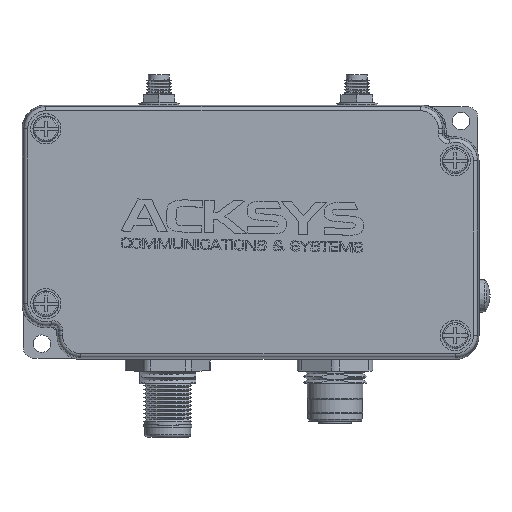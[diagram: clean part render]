
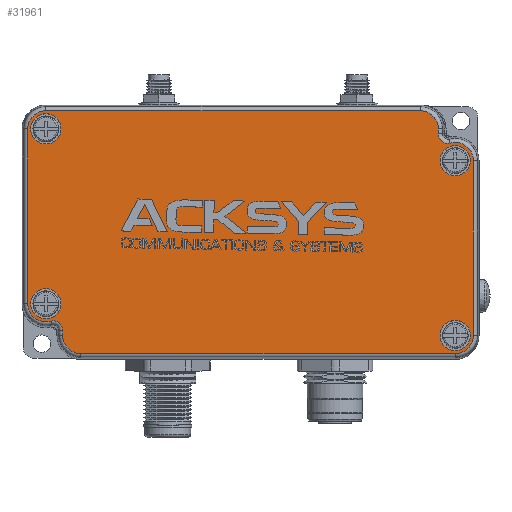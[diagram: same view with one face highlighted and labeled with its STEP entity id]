
A CAD part, top view. The second image highlights one B-rep face of the part: STEP entity #31961.
In plain terms, the highlighted planar face has unit normal (0, 0, 1).
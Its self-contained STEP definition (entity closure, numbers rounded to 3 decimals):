
#572=FACE_BOUND('',#3930,.T.);
#573=FACE_BOUND('',#3931,.T.);
#574=FACE_BOUND('',#3932,.T.);
#575=FACE_BOUND('',#3933,.T.);
#699=PLANE('',#34019);
#2136=FACE_OUTER_BOUND('',#3929,.T.);
#3929=EDGE_LOOP('',(#22903,#22904,#22905,#22906,#22907,#22908,#22909,#22910,
#22911,#22912,#22913,#22914,#22915,#22916));
#3930=EDGE_LOOP('',(#22917,#22918));
#3931=EDGE_LOOP('',(#22919,#22920));
#3932=EDGE_LOOP('',(#22921,#22922));
#3933=EDGE_LOOP('',(#22923,#22924));
#5783=CIRCLE('',#33976,4.554);
#5787=CIRCLE('',#33981,2.446);
#5789=CIRCLE('',#33986,4.554);
#5793=CIRCLE('',#33992,2.446);
#5796=CIRCLE('',#33996,4.554);
#5799=CIRCLE('',#34000,4.554);
#5807=CIRCLE('',#34011,4.554);
#5810=CIRCLE('',#34020,4.554);
#5811=CIRCLE('',#34021,3.8);
#5812=CIRCLE('',#34022,3.8);
#5813=CIRCLE('',#34023,3.8);
#5814=CIRCLE('',#34024,3.8);
#5815=CIRCLE('',#34025,3.8);
#5816=CIRCLE('',#34026,3.8);
#5817=CIRCLE('',#34027,3.8);
#5818=CIRCLE('',#34028,3.8);
#6687=LINE('',#46313,#10389);
#6697=LINE('',#46387,#10399);
#6699=LINE('',#46390,#10401);
#6703=LINE('',#46398,#10405);
#6705=LINE('',#46403,#10407);
#6706=LINE('',#46404,#10408);
#10389=VECTOR('',#37211,1000.);
#10399=VECTOR('',#37283,1000.);
#10401=VECTOR('',#37287,1000.);
#10405=VECTOR('',#37297,1000.);
#10407=VECTOR('',#37303,1000.);
#10408=VECTOR('',#37304,1000.);
#14286=VERTEX_POINT('',#46288);
#14287=VERTEX_POINT('',#46299);
#14289=VERTEX_POINT('',#46305);
#14291=VERTEX_POINT('',#46311);
#14294=VERTEX_POINT('',#46321);
#14297=VERTEX_POINT('',#46331);
#14298=VERTEX_POINT('',#46332);
#14301=VERTEX_POINT('',#46347);
#14303=VERTEX_POINT('',#46353);
#14304=VERTEX_POINT('',#46354);
#14313=VERTEX_POINT('',#46377);
#14314=VERTEX_POINT('',#46379);
#14316=VERTEX_POINT('',#46385);
#14318=VERTEX_POINT('',#46401);
#14319=VERTEX_POINT('',#46405);
#14320=VERTEX_POINT('',#46406);
#14321=VERTEX_POINT('',#46409);
#14322=VERTEX_POINT('',#46410);
#14323=VERTEX_POINT('',#46413);
#14324=VERTEX_POINT('',#46414);
#14325=VERTEX_POINT('',#46417);
#14326=VERTEX_POINT('',#46418);
#17623=EDGE_CURVE('',#14287,#14286,#5783,.T.);
#17627=EDGE_CURVE('',#14286,#14289,#5787,.T.);
#17630=EDGE_CURVE('',#14289,#14291,#6687,.T.);
#17634=EDGE_CURVE('',#14291,#14294,#5789,.T.);
#17639=EDGE_CURVE('',#14297,#14298,#5793,.T.);
#17643=EDGE_CURVE('',#14298,#14301,#5796,.T.);
#17646=EDGE_CURVE('',#14303,#14304,#5799,.T.);
#17658=EDGE_CURVE('',#14313,#14314,#5807,.T.);
#17662=EDGE_CURVE('',#14316,#14294,#6697,.T.);
#17664=EDGE_CURVE('',#14313,#14303,#6699,.T.);
#17668=EDGE_CURVE('',#14287,#14304,#6703,.T.);
#17670=EDGE_CURVE('',#14318,#14316,#5810,.T.);
#17671=EDGE_CURVE('',#14318,#14301,#6705,.T.);
#17672=EDGE_CURVE('',#14297,#14314,#6706,.T.);
#17673=EDGE_CURVE('',#14319,#14320,#5811,.T.);
#17674=EDGE_CURVE('',#14320,#14319,#5812,.T.);
#17675=EDGE_CURVE('',#14321,#14322,#5813,.T.);
#17676=EDGE_CURVE('',#14322,#14321,#5814,.T.);
#17677=EDGE_CURVE('',#14323,#14324,#5815,.T.);
#17678=EDGE_CURVE('',#14324,#14323,#5816,.T.);
#17679=EDGE_CURVE('',#14325,#14326,#5817,.T.);
#17680=EDGE_CURVE('',#14326,#14325,#5818,.T.);
#22903=ORIENTED_EDGE('',*,*,#17668,.F.);
#22904=ORIENTED_EDGE('',*,*,#17623,.T.);
#22905=ORIENTED_EDGE('',*,*,#17627,.T.);
#22906=ORIENTED_EDGE('',*,*,#17630,.T.);
#22907=ORIENTED_EDGE('',*,*,#17634,.T.);
#22908=ORIENTED_EDGE('',*,*,#17662,.F.);
#22909=ORIENTED_EDGE('',*,*,#17670,.F.);
#22910=ORIENTED_EDGE('',*,*,#17671,.T.);
#22911=ORIENTED_EDGE('',*,*,#17643,.F.);
#22912=ORIENTED_EDGE('',*,*,#17639,.F.);
#22913=ORIENTED_EDGE('',*,*,#17672,.T.);
#22914=ORIENTED_EDGE('',*,*,#17658,.F.);
#22915=ORIENTED_EDGE('',*,*,#17664,.T.);
#22916=ORIENTED_EDGE('',*,*,#17646,.T.);
#22917=ORIENTED_EDGE('',*,*,#17673,.T.);
#22918=ORIENTED_EDGE('',*,*,#17674,.T.);
#22919=ORIENTED_EDGE('',*,*,#17675,.T.);
#22920=ORIENTED_EDGE('',*,*,#17676,.T.);
#22921=ORIENTED_EDGE('',*,*,#17677,.T.);
#22922=ORIENTED_EDGE('',*,*,#17678,.T.);
#22923=ORIENTED_EDGE('',*,*,#17679,.T.);
#22924=ORIENTED_EDGE('',*,*,#17680,.T.);
#31961=ADVANCED_FACE('',(#2136,#572,#573,#574,#575),#699,.F.);
#33976=AXIS2_PLACEMENT_3D('',#46300,#37194,#37195);
#33981=AXIS2_PLACEMENT_3D('',#46307,#37204,#37205);
#33986=AXIS2_PLACEMENT_3D('',#46322,#37219,#37220);
#33992=AXIS2_PLACEMENT_3D('',#46333,#37232,#37233);
#33996=AXIS2_PLACEMENT_3D('',#46348,#37240,#37241);
#34000=AXIS2_PLACEMENT_3D('',#46355,#37248,#37249);
#34011=AXIS2_PLACEMENT_3D('',#46380,#37274,#37275);
#34019=AXIS2_PLACEMENT_3D('',#46400,#37299,#37300);
#34020=AXIS2_PLACEMENT_3D('',#46402,#37301,#37302);
#34021=AXIS2_PLACEMENT_3D('',#46407,#37305,#37306);
#34022=AXIS2_PLACEMENT_3D('',#46408,#37307,#37308);
#34023=AXIS2_PLACEMENT_3D('',#46411,#37309,#37310);
#34024=AXIS2_PLACEMENT_3D('',#46412,#37311,#37312);
#34025=AXIS2_PLACEMENT_3D('',#46415,#37313,#37314);
#34026=AXIS2_PLACEMENT_3D('',#46416,#37315,#37316);
#34027=AXIS2_PLACEMENT_3D('',#46419,#37317,#37318);
#34028=AXIS2_PLACEMENT_3D('',#46420,#37319,#37320);
#37194=DIRECTION('center_axis',(0.,0.,1.));
#37195=DIRECTION('ref_axis',(-1.,0.,0.));
#37204=DIRECTION('center_axis',(0.,0.,-1.));
#37205=DIRECTION('ref_axis',(1.,0.,0.));
#37211=DIRECTION('',(0.,-1.,0.));
#37219=DIRECTION('center_axis',(0.,0.,1.));
#37220=DIRECTION('ref_axis',(-1.,0.,0.));
#37232=DIRECTION('center_axis',(0.,0.,1.));
#37233=DIRECTION('ref_axis',(-1.,0.,0.));
#37240=DIRECTION('center_axis',(0.,0.,-1.));
#37241=DIRECTION('ref_axis',(1.,0.,0.));
#37248=DIRECTION('center_axis',(0.,0.,1.));
#37249=DIRECTION('ref_axis',(-1.,0.,0.));
#37274=DIRECTION('center_axis',(0.,0.,-1.));
#37275=DIRECTION('ref_axis',(1.,0.,0.));
#37283=DIRECTION('',(-1.,0.,0.));
#37287=DIRECTION('',(-1.,0.,0.));
#37297=DIRECTION('',(0.,1.,0.));
#37299=DIRECTION('center_axis',(0.,0.,-1.));
#37300=DIRECTION('ref_axis',(1.,0.,0.));
#37301=DIRECTION('center_axis',(0.,0.,-1.));
#37302=DIRECTION('ref_axis',(1.,0.,0.));
#37303=DIRECTION('',(0.,1.,0.));
#37304=DIRECTION('',(0.,1.,0.));
#37305=DIRECTION('center_axis',(0.,0.,-1.));
#37306=DIRECTION('ref_axis',(1.,0.,0.));
#37307=DIRECTION('center_axis',(0.,0.,-1.));
#37308=DIRECTION('ref_axis',(1.,0.,0.));
#37309=DIRECTION('center_axis',(0.,0.,-1.));
#37310=DIRECTION('ref_axis',(1.,0.,0.));
#37311=DIRECTION('center_axis',(0.,0.,-1.));
#37312=DIRECTION('ref_axis',(1.,0.,0.));
#37313=DIRECTION('center_axis',(0.,0.,-1.));
#37314=DIRECTION('ref_axis',(1.,0.,0.));
#37315=DIRECTION('center_axis',(0.,0.,-1.));
#37316=DIRECTION('ref_axis',(1.,0.,0.));
#37317=DIRECTION('center_axis',(0.,0.,-1.));
#37318=DIRECTION('ref_axis',(1.,0.,0.));
#37319=DIRECTION('center_axis',(0.,0.,-1.));
#37320=DIRECTION('ref_axis',(1.,0.,0.));
#46288=CARTESIAN_POINT('',(-50.214,-22.369,34.5));
#46299=CARTESIAN_POINT('',(-56.054,-18.,34.5));
#46300=CARTESIAN_POINT('Origin',(-51.5,-18.,34.5));
#46305=CARTESIAN_POINT('',(-47.254,-24.76,34.5));
#46307=CARTESIAN_POINT('Origin',(-49.7,-24.76,34.5));
#46311=CARTESIAN_POINT('',(-47.254,-26.,34.5));
#46313=CARTESIAN_POINT('',(-47.254,0.,34.5));
#46321=CARTESIAN_POINT('',(-42.7,-30.554,34.5));
#46322=CARTESIAN_POINT('Origin',(-42.7,-26.,34.5));
#46331=CARTESIAN_POINT('',(47.254,24.76,34.5));
#46332=CARTESIAN_POINT('',(50.214,22.369,34.5));
#46333=CARTESIAN_POINT('Origin',(49.7,24.76,34.5));
#46347=CARTESIAN_POINT('',(56.054,18.,34.5));
#46348=CARTESIAN_POINT('Origin',(51.5,18.,34.5));
#46353=CARTESIAN_POINT('',(-51.5,30.554,34.5));
#46354=CARTESIAN_POINT('',(-56.054,26.,34.5));
#46355=CARTESIAN_POINT('Origin',(-51.5,26.,34.5));
#46377=CARTESIAN_POINT('',(42.7,30.554,34.5));
#46379=CARTESIAN_POINT('',(47.254,26.,34.5));
#46380=CARTESIAN_POINT('Origin',(42.7,26.,34.5));
#46385=CARTESIAN_POINT('',(51.5,-30.554,34.5));
#46387=CARTESIAN_POINT('',(51.5,-30.554,34.5));
#46390=CARTESIAN_POINT('',(51.5,30.554,34.5));
#46398=CARTESIAN_POINT('',(-56.054,-26.,34.5));
#46400=CARTESIAN_POINT('Origin',(56.054,-26.,34.5));
#46401=CARTESIAN_POINT('',(56.054,-26.,34.5));
#46402=CARTESIAN_POINT('Origin',(51.5,-26.,34.5));
#46403=CARTESIAN_POINT('',(56.054,-26.,34.5));
#46404=CARTESIAN_POINT('',(47.254,0.,34.5));
#46405=CARTESIAN_POINT('',(55.3,-26.,34.5));
#46406=CARTESIAN_POINT('',(47.7,-26.,34.5));
#46407=CARTESIAN_POINT('Origin',(51.5,-26.,34.5));
#46408=CARTESIAN_POINT('Origin',(51.5,-26.,34.5));
#46409=CARTESIAN_POINT('',(-47.7,-18.,34.5));
#46410=CARTESIAN_POINT('',(-55.3,-18.,34.5));
#46411=CARTESIAN_POINT('Origin',(-51.5,-18.,34.5));
#46412=CARTESIAN_POINT('Origin',(-51.5,-18.,34.5));
#46413=CARTESIAN_POINT('',(-47.7,26.,34.5));
#46414=CARTESIAN_POINT('',(-55.3,26.,34.5));
#46415=CARTESIAN_POINT('Origin',(-51.5,26.,34.5));
#46416=CARTESIAN_POINT('Origin',(-51.5,26.,34.5));
#46417=CARTESIAN_POINT('',(55.3,18.,34.5));
#46418=CARTESIAN_POINT('',(47.7,18.,34.5));
#46419=CARTESIAN_POINT('Origin',(51.5,18.,34.5));
#46420=CARTESIAN_POINT('Origin',(51.5,18.,34.5));
